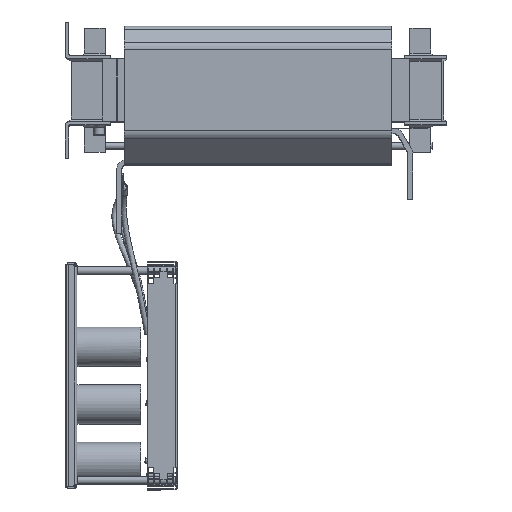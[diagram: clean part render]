
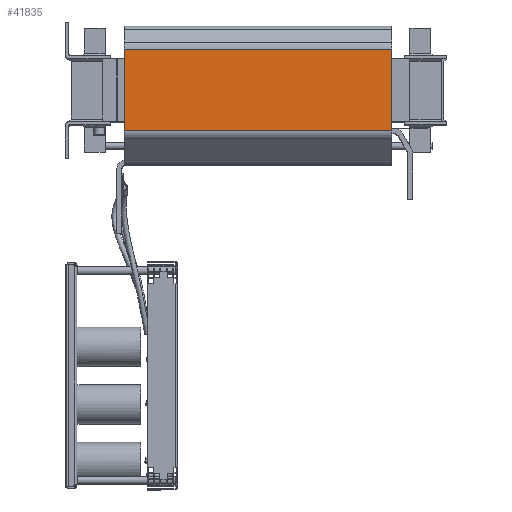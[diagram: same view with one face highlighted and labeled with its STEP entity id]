
A CAD part, top view. The second image highlights one B-rep face of the part: STEP entity #41835.
In plain terms, the highlighted planar face has unit normal (0, 0, 1).
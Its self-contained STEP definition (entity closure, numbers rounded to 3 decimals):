
#35009=CARTESIAN_POINT('',(-180.939,66.876,564.018));
#35010=VERTEX_POINT('',#35009);
#35020=CARTESIAN_POINT('',(-180.939,-87.975,564.018));
#35021=VERTEX_POINT('',#35020);
#35022=CARTESIAN_POINT('',(-180.939,-87.975,564.018));
#35023=DIRECTION('',(0.0,1.0,0.0));
#35024=VECTOR('',#35023,154.851);
#35025=LINE('',#35022,#35024);
#35026=EDGE_CURVE('',#35021,#35010,#35025,.T.);
#41449=CARTESIAN_POINT('',(-690.939,66.876,564.018));
#41450=VERTEX_POINT('',#41449);
#41458=CARTESIAN_POINT('',(-180.939,66.876,564.018));
#41459=DIRECTION('',(-1.0,0.0,0.0));
#41460=VECTOR('',#41459,510.0);
#41461=LINE('',#41458,#41460);
#41462=EDGE_CURVE('',#35010,#41450,#41461,.T.);
#41800=CARTESIAN_POINT('',(-690.939,-87.975,564.018));
#41801=VERTEX_POINT('',#41800);
#41802=CARTESIAN_POINT('',(-180.939,-87.975,564.018));
#41803=DIRECTION('',(-1.0,0.0,0.0));
#41804=VECTOR('',#41803,510.0);
#41805=LINE('',#41802,#41804);
#41806=EDGE_CURVE('',#35021,#41801,#41805,.T.);
#41819=CARTESIAN_POINT('',(-435.939,47.683,564.018));
#41820=DIRECTION('',(0.0,0.0,1.0));
#41821=DIRECTION('',(1.0,0.0,0.0));
#41822=AXIS2_PLACEMENT_3D('',#41819,#41820,#41821);
#41823=PLANE('',#41822);
#41824=ORIENTED_EDGE('',*,*,#35026,.T.);
#41825=ORIENTED_EDGE('',*,*,#41462,.T.);
#41826=CARTESIAN_POINT('',(-690.939,66.876,564.018));
#41827=DIRECTION('',(0.0,-1.0,0.0));
#41828=VECTOR('',#41827,154.851);
#41829=LINE('',#41826,#41828);
#41830=EDGE_CURVE('',#41450,#41801,#41829,.T.);
#41831=ORIENTED_EDGE('',*,*,#41830,.T.);
#41832=ORIENTED_EDGE('',*,*,#41806,.F.);
#41833=EDGE_LOOP('',(#41824,#41825,#41831,#41832));
#41834=FACE_OUTER_BOUND('',#41833,.T.);
#41835=ADVANCED_FACE('',(#41834),#41823,.T.);
